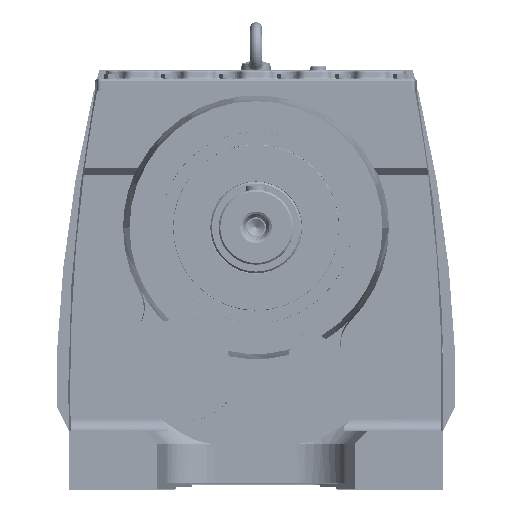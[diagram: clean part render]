
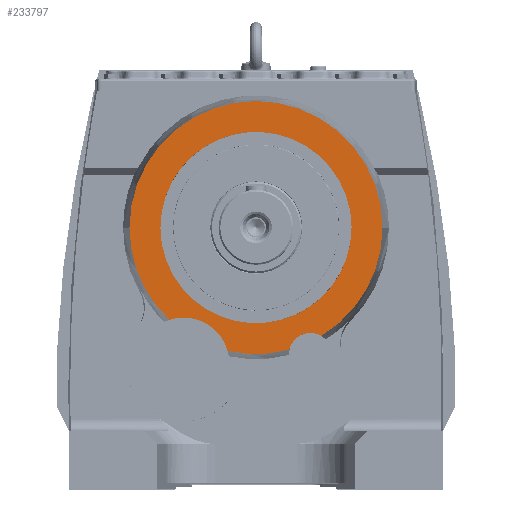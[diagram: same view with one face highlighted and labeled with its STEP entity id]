
A CAD part, top view. The second image highlights one B-rep face of the part: STEP entity #233797.
In plain terms, the highlighted planar face has unit normal (0, 0, 1).
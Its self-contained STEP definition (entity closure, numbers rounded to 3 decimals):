
#1135 = DIRECTION ( 'NONE',  ( 1., 0., 0. ) ) ;
#1154 = DIRECTION ( 'NONE',  ( 0., 0., 1. ) ) ;
#1180 = PLANE ( 'NONE',  #304249 ) ;
#1196 = CARTESIAN_POINT ( 'NONE',  ( 0., 0., 243. ) ) ;
#6298 = DIRECTION ( 'NONE',  ( -1., 0., 0. ) ) ;
#6360 = DIRECTION ( 'NONE',  ( 0., 0., -1. ) ) ;
#6372 = CARTESIAN_POINT ( 'NONE',  ( 0., 0., 243. ) ) ;
#8409 = DIRECTION ( 'NONE',  ( 0., 0., -1. ) ) ;
#8422 = CARTESIAN_POINT ( 'NONE',  ( 0., 0., 243. ) ) ;
#8469 = DIRECTION ( 'NONE',  ( -1., 0., 0. ) ) ;
#20104 = EDGE_CURVE ( 'NONE', #276816, #272864, #226353, .T. ) ;
#20810 = EDGE_CURVE ( 'NONE', #276791, #276746, #224354, .T. ) ;
#27352 = EDGE_CURVE ( 'NONE', #272800, #272804, #316670, .T. ) ;
#27721 = EDGE_CURVE ( 'NONE', #272838, #272800, #316891, .T. ) ;
#31294 = EDGE_CURVE ( 'NONE', #276746, #276791, #314725, .T. ) ;
#31407 = EDGE_CURVE ( 'NONE', #274345, #276816, #314752, .T. ) ;
#46437 = DIRECTION ( 'NONE',  ( -1., 0., 0. ) ) ;
#46450 = DIRECTION ( 'NONE',  ( 0., 0., -1. ) ) ;
#46511 = CARTESIAN_POINT ( 'NONE',  ( 65.528, -152.718, 243. ) ) ;
#56499 = DIRECTION ( 'NONE',  ( 0., 0., -1. ) ) ;
#56573 = CARTESIAN_POINT ( 'NONE',  ( 0., 0., 243. ) ) ;
#56609 = DIRECTION ( 'NONE',  ( -1., 0., 0. ) ) ;
#131545 = EDGE_LOOP ( 'NONE', ( #297090, #297154, #297373, #297408, #297299, #297625 ) ) ;
#131569 = EDGE_LOOP ( 'NONE', ( #297338, #297471 ) ) ;
#159892 = AXIS2_PLACEMENT_3D ( 'NONE', #205627, #205637, #205612 ) ;
#159987 = AXIS2_PLACEMENT_3D ( 'NONE', #205780, #205649, #205670 ) ;
#205612 = DIRECTION ( 'NONE',  ( -1., 0., 0. ) ) ;
#205627 = CARTESIAN_POINT ( 'NONE',  ( 0., 0., 243. ) ) ;
#205637 = DIRECTION ( 'NONE',  ( 0., 0., -1. ) ) ;
#205649 = DIRECTION ( 'NONE',  ( 0., 0., -1. ) ) ;
#205670 = DIRECTION ( 'NONE',  ( -1., 0., 0. ) ) ;
#205780 = CARTESIAN_POINT ( 'NONE',  ( -87.112, -163.207, 243. ) ) ;
#207576 = CIRCLE ( 'NONE', #159892, 152.301 ) ;
#207623 = CIRCLE ( 'NONE', #159987, 55. ) ;
#224354 = CIRCLE ( 'NONE', #299931, 115. ) ;
#226353 = CIRCLE ( 'NONE', #299672, 26. ) ;
#229057 = CARTESIAN_POINT ( 'NONE',  ( -152.301, 0., 243. ) ) ;
#229097 = CARTESIAN_POINT ( 'NONE',  ( 152.301, 0., 243. ) ) ;
#229257 = CARTESIAN_POINT ( 'NONE',  ( -104.316, -110.967, 243. ) ) ;
#229276 = CARTESIAN_POINT ( 'NONE',  ( 78.775, -130.346, 243. ) ) ;
#233797 = ADVANCED_FACE ( 'NONE', ( #330601, #330344 ), #1180, .T. ) ;
#233925 = CARTESIAN_POINT ( 'NONE',  ( 115., 0., 243. ) ) ;
#233945 = CARTESIAN_POINT ( 'NONE',  ( 40.186, -146.904, 243. ) ) ;
#233966 = CARTESIAN_POINT ( 'NONE',  ( -115., 0., 243. ) ) ;
#235016 = CARTESIAN_POINT ( 'NONE',  ( -34.135, -148.426, 243. ) ) ;
#270622 = EDGE_CURVE ( 'NONE', #272804, #272864, #207576, .T. ) ;
#270650 = EDGE_CURVE ( 'NONE', #272838, #274345, #207623, .T. ) ;
#272800 = VERTEX_POINT ( 'NONE', #229057 ) ;
#272804 = VERTEX_POINT ( 'NONE', #229097 ) ;
#272838 = VERTEX_POINT ( 'NONE', #229257 ) ;
#272864 = VERTEX_POINT ( 'NONE', #229276 ) ;
#274345 = VERTEX_POINT ( 'NONE', #235016 ) ;
#276746 = VERTEX_POINT ( 'NONE', #233925 ) ;
#276791 = VERTEX_POINT ( 'NONE', #233966 ) ;
#276816 = VERTEX_POINT ( 'NONE', #233945 ) ;
#297090 = ORIENTED_EDGE ( 'NONE', *, *, #27721, .F. ) ;
#297154 = ORIENTED_EDGE ( 'NONE', *, *, #270650, .T. ) ;
#297299 = ORIENTED_EDGE ( 'NONE', *, *, #270622, .F. ) ;
#297338 = ORIENTED_EDGE ( 'NONE', *, *, #20810, .T. ) ;
#297373 = ORIENTED_EDGE ( 'NONE', *, *, #31407, .T. ) ;
#297408 = ORIENTED_EDGE ( 'NONE', *, *, #20104, .T. ) ;
#297471 = ORIENTED_EDGE ( 'NONE', *, *, #31294, .T. ) ;
#297625 = ORIENTED_EDGE ( 'NONE', *, *, #27352, .F. ) ;
#299672 = AXIS2_PLACEMENT_3D ( 'NONE', #46511, #46450, #46437 ) ;
#299931 = AXIS2_PLACEMENT_3D ( 'NONE', #56573, #56499, #56609 ) ;
#301079 = AXIS2_PLACEMENT_3D ( 'NONE', #8422, #8409, #8469 ) ;
#301139 = AXIS2_PLACEMENT_3D ( 'NONE', #6372, #6360, #6298 ) ;
#302531 = AXIS2_PLACEMENT_3D ( 'NONE', #330623, #330523, #330741 ) ;
#302554 = AXIS2_PLACEMENT_3D ( 'NONE', #320024, #320111, #320056 ) ;
#304249 = AXIS2_PLACEMENT_3D ( 'NONE', #1196, #1154, #1135 ) ;
#314725 = CIRCLE ( 'NONE', #302554, 115. ) ;
#314752 = CIRCLE ( 'NONE', #302531, 152.301 ) ;
#316670 = CIRCLE ( 'NONE', #301079, 152.301 ) ;
#316891 = CIRCLE ( 'NONE', #301139, 152.301 ) ;
#320024 = CARTESIAN_POINT ( 'NONE',  ( 0., 0., 243. ) ) ;
#320056 = DIRECTION ( 'NONE',  ( -1., 0., 0. ) ) ;
#320111 = DIRECTION ( 'NONE',  ( 0., 0., -1. ) ) ;
#330344 = FACE_BOUND ( 'NONE', #131569, .T. ) ;
#330523 = DIRECTION ( 'NONE',  ( 0., 0., 1. ) ) ;
#330601 = FACE_OUTER_BOUND ( 'NONE', #131545, .T. ) ;
#330623 = CARTESIAN_POINT ( 'NONE',  ( 0., 0., 243. ) ) ;
#330741 = DIRECTION ( 'NONE',  ( -1., 0., 0. ) ) ;
